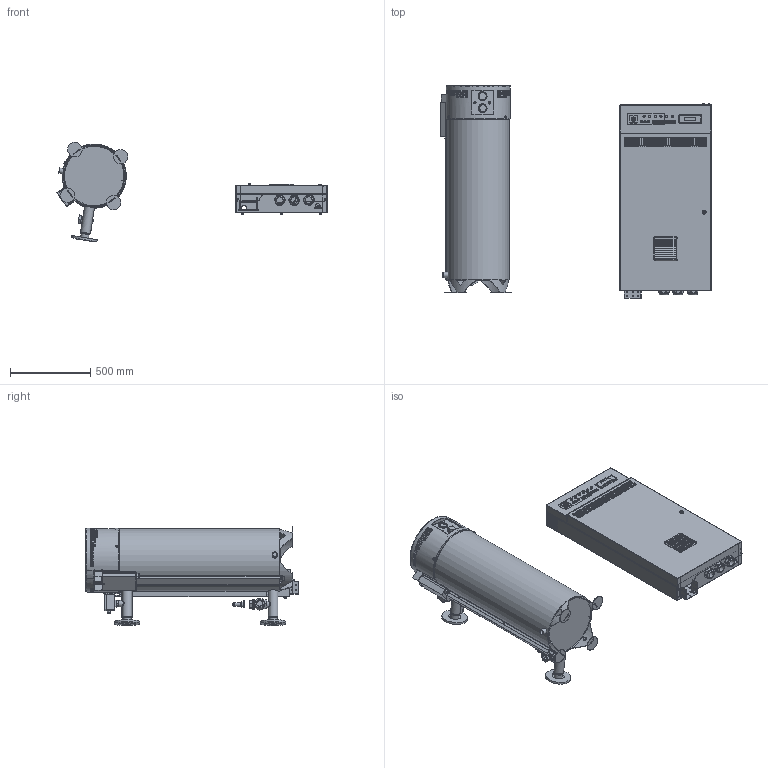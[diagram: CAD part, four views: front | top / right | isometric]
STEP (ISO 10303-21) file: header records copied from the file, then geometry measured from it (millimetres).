
FILE_DESCRIPTION(/* description */ (''),/* implementation_level */ '2;1');
FILE_NAME(/* name */ 'Z:\!!!Обмен файлами\Маркелова Л.В\Задача 144\150-200\Сборка1_Shrinkwrap_1.stp',/* time_stamp */ '2022-12-01T14:16:11+03:00',/* author */ ('nvsk-constr2'),/* organization */ (''),/* preprocessor_version */ 'ST-DEVELOPER v18.1',/* originating_system */ 'Autodesk Inventor 2021',/* authorisation */ '');
FILE_SCHEMA (('AUTOMOTIVE_DESIGN { 1 0 10303 214 3 1 1 }'));
Products named in the file (1): Сборка1_Shrinkwrap_1
Bounding box: 1685.47 x 1322.8 x 619.16 mm (x, y, z)
Volume: 6344437.2 mm3; surface area: 10992209.5 mm2
Topology: 7 solids, 115 shells, 2478 faces, 8092 edges, 5600 vertices
Faces by surface type: plane 1380, cylinder 727, cone 247, torus 83, sphere 27, bspline 14
Full cylindrical faces by diameter (mm): 3.5 x2, 4 x4, 4.317 x2, 4.5 x4, 6 x5, 6.5 x12, 7 x14, 7.119 x1, 7.323 x3, 7.834 x2, 8 x9, 8.4 x3, 8.5 x6, 8.8 x1, 9 x2, 9.5 x6, 9.936 x1, 10 x8, 11.4 x6, 11.433 x2, 11.5 x9, 11.63 x5, 12 x5, 13 x1, 13.562 x1, 14 x10, 14.367 x1, 14.778 x2, 14.9 x1, 15 x1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
Entity records: 97885 total; most frequent: CARTESIAN_POINT 22947, DIRECTION 15308, ORIENTED_EDGE 14002, EDGE_CURVE 8087, VERTEX_POINT 5600, AXIS2_PLACEMENT_3D 5374, LINE 4560, VECTOR 4560
